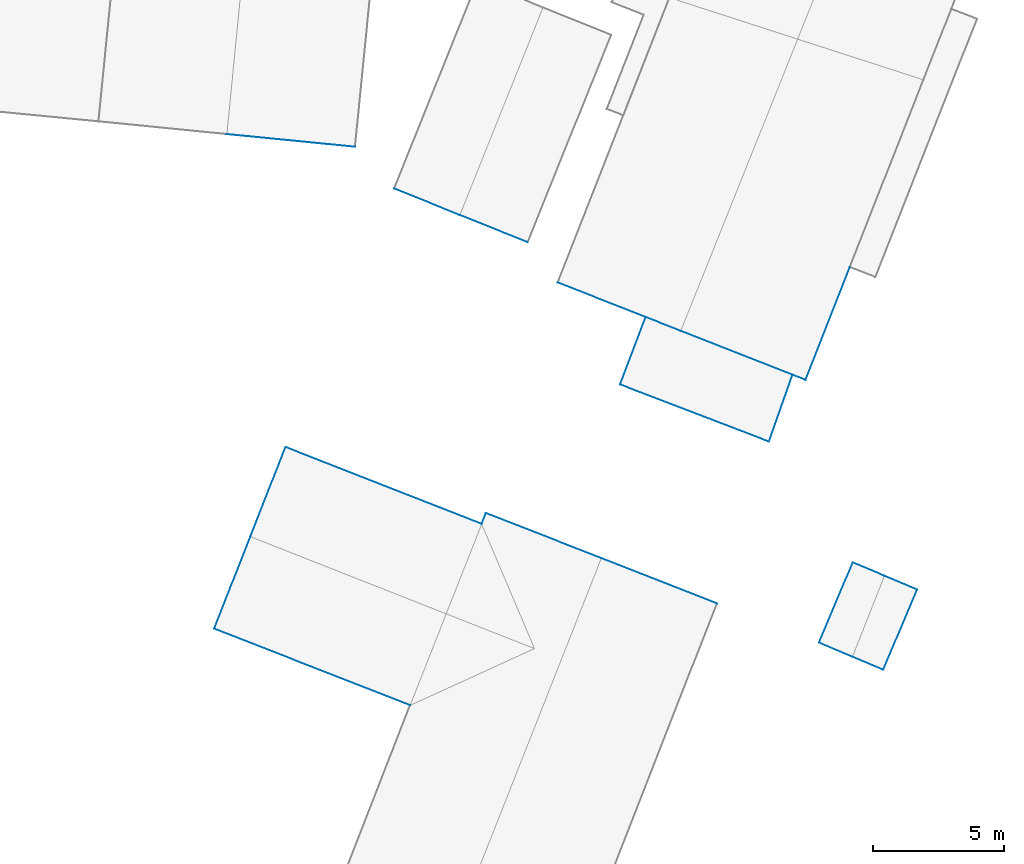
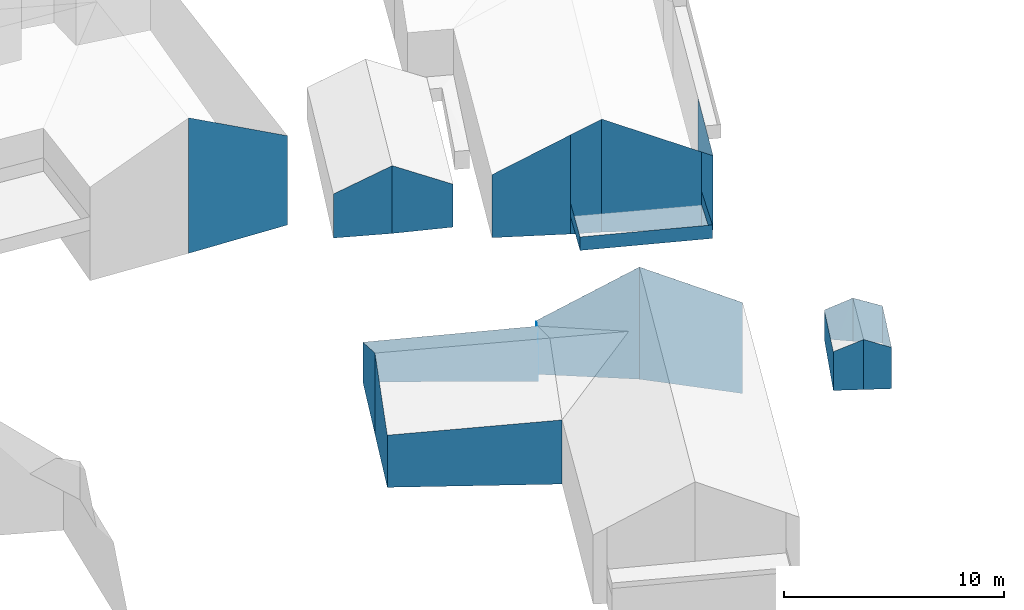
# Not in any storey, part 40 of 57: 27 walls.
"""IFC2X3 building model written with IfcOpenShell, lengths in metres."""

from ifc_helpers import new_model, entity, si_unit, converted_unit, origin, place, context, subcontext, project, spatial, face_set, surface_model, element, save


model = new_model("IFC2X3")

# Units and contexts
model_context = context("Model", 3, precision=1e-05, world=origin())
body_context = subcontext(model_context, "Body", "Model", "MODEL_VIEW")
ifc_project = project(units=[converted_unit("PLANEANGLEUNIT", "DEGREE", entity("IfcRatioMeasure", 0.0174532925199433), si_unit("PLANEANGLEUNIT", "RADIAN"), dimensions=[0, 0, 0, 0, 0, 0, 0]), si_unit("AREAUNIT", "SQUARE_METRE"), si_unit("LENGTHUNIT", "METRE")], contexts=[model_context])

# Site, building
site_placement = place(None, origin())
site = spatial("IfcSite", under=ifc_project, at=site_placement, Name="_site", CompositionType="ELEMENT")
building_1_placement = place(site_placement, origin())
building_1 = spatial("IfcBuilding", under=site, at=building_1_placement, Name="_building", CompositionType="ELEMENT")

# Walls
wall_1_placement = place(building_1_placement, origin())
element("IfcWall", 1, at=wall_1_placement, inside=building_1, Name="Wall", context=body_context, shape_type="SurfaceModel", body=[
    surface_model("IfcFaceBasedSurfaceModel", [(280.772, 134.306, 111.8), (278.174, 135.347, 113.11), (278.174, 135.347, 109.347), (280.772, 134.306, 109.42)], [face_set([[[0, 1, 2, 3]]])]),
])
wall_2_placement = place(building_1_placement, origin())
element("IfcWall", 2, at=wall_2_placement, inside=building_1, Name="Wall", context=body_context, shape_type="SurfaceModel", body=[
    surface_model("IfcFaceBasedSurfaceModel", [(278.174, 135.347, 113.11), (275.667, 136.357, 111.8), (275.667, 136.357, 109.357), (278.174, 135.347, 109.347)], [face_set([[[0, 1, 2, 3]]])]),
])

# Building
building_2_placement = place(site_placement, origin())
building_2 = spatial("IfcBuilding", under=site, at=building_2_placement, Name="_building", CompositionType="ELEMENT")

# Walls
wall_3_placement = place(building_2_placement, origin())
element("IfcWall", 3, at=wall_3_placement, inside=building_2, Name="Wall", context=body_context, shape_type="SurfaceModel", body=[
    surface_model("IfcFaceBasedSurfaceModel", [(293.193, 122.068, 107.89), (294.402, 121.559, 108.44), (294.402, 121.559, 106.04), (293.193, 122.068, 106.284)], [face_set([[[0, 1, 2, 3]]])]),
])
wall_4_placement = place(building_2_placement, origin())
element("IfcWall", 4, at=wall_4_placement, inside=building_2, Name="Wall", context=body_context, shape_type="SurfaceModel", body=[
    surface_model("IfcFaceBasedSurfaceModel", [(291.901, 119.006, 107.89), (293.193, 122.068, 107.89), (293.193, 122.068, 106.284), (291.901, 119.006, 105.732)], [face_set([[[0, 1, 2, 3]]])]),
])
wall_5_placement = place(building_2_placement, origin())
element("IfcWall", 5, at=wall_5_placement, inside=building_2, Name="Wall", context=body_context, shape_type="SurfaceModel", body=[
    surface_model("IfcFaceBasedSurfaceModel", [(293.179, 118.466, 108.44), (291.901, 119.006, 107.89), (291.901, 119.006, 105.732), (293.179, 118.466, 105.664)], [face_set([[[0, 1, 2, 3]]])]),
])
wall_6_placement = place(building_2_placement, origin())
element("IfcWall", 6, at=wall_6_placement, inside=building_2, Name="Wall", context=body_context, shape_type="SurfaceModel", body=[
    surface_model("IfcFaceBasedSurfaceModel", [(294.358, 117.968, 107.89), (293.179, 118.466, 108.44), (293.179, 118.466, 105.664), (294.358, 117.968, 105.601)], [face_set([[[0, 1, 2, 3]]])]),
])
wall_7_placement = place(building_2_placement, origin())
element("IfcWall", 7, at=wall_7_placement, inside=building_2, Name="Wall", context=body_context, shape_type="SurfaceModel", body=[
    surface_model("IfcFaceBasedSurfaceModel", [(295.65, 121.03, 107.89), (294.358, 117.968, 107.89), (294.358, 117.968, 105.601), (295.65, 121.03, 105.836)], [face_set([[[0, 1, 2, 3]]])]),
])
wall_8_placement = place(building_2_placement, origin())
element("IfcWall", 8, at=wall_8_placement, inside=building_2, Name="Wall", context=body_context, shape_type="SurfaceModel", body=[
    surface_model("IfcFaceBasedSurfaceModel", [(294.402, 121.559, 108.44), (295.65, 121.03, 107.89), (295.65, 121.03, 105.836), (294.402, 121.559, 106.04)], [face_set([[[0, 1, 2, 3]]])]),
])

# Building
building_3_placement = place(site_placement, origin())
building_3 = spatial("IfcBuilding", under=site, at=building_3_placement, Name="_building", CompositionType="ELEMENT")

# Walls
wall_9_placement = place(building_3_placement, origin())
element("IfcWall", 9, at=wall_9_placement, inside=building_3, Name="Wall", context=body_context, shape_type="SurfaceModel", body=[
    surface_model("IfcFaceBasedSurfaceModel", [(285.277, 131.446, 114.697), (281.916, 132.768, 112.86), (281.916, 132.768, 109.364), (285.277, 131.446, 109.192)], [face_set([[[0, 1, 2, 3]]])]),
])
wall_10_placement = place(building_3_placement, origin())
element("IfcWall", 10, at=wall_10_placement, inside=building_3, Name="Wall", context=body_context, shape_type="SurfaceModel", body=[
    surface_model("IfcFaceBasedSurfaceModel", [(286.616, 130.917, 115.43), (285.277, 131.446, 114.697), (285.277, 131.446, 109.192), (286.616, 130.917, 109.149)], [face_set([[[0, 1, 2, 3]]])]),
])
wall_11_placement = place(building_3_placement, origin())
element("IfcWall", 11, at=wall_11_placement, inside=building_3, Name="Wall", context=body_context, shape_type="SurfaceModel", body=[
    surface_model("IfcFaceBasedSurfaceModel", [(291.385, 129.044, 112.86), (290.89, 129.238, 113.127), (290.89, 129.238, 108.833), (291.385, 129.044, 108.731)], [face_set([[[0, 1, 2, 3]]])]),
])
wall_12_placement = place(building_3_placement, origin())
element("IfcWall", 12, at=wall_12_placement, inside=building_3, Name="Wall", context=body_context, shape_type="SurfaceModel", body=[
    surface_model("IfcFaceBasedSurfaceModel", [(290.89, 129.238, 113.127), (286.616, 130.917, 115.43), (286.616, 130.917, 109.149), (290.89, 129.238, 108.833)], [face_set([[[0, 1, 2, 3]]])]),
])
wall_13_placement = place(building_3_placement, origin())
element("IfcWall", 13, at=wall_13_placement, inside=building_3, Name="Wall", context=body_context, shape_type="SurfaceModel", body=[
    surface_model("IfcFaceBasedSurfaceModel", [(293.08, 133.357, 112.86), (291.385, 129.044, 112.86), (291.385, 129.044, 108.731), (293.08, 133.357, 108.654)], [face_set([[[0, 1, 2, 3]]])]),
])
wall_14_placement = place(building_3_placement, origin())
element("IfcWall", 14, at=wall_14_placement, inside=building_3, Name="Wall", context=body_context, shape_type="SurfaceModel", body=[
    surface_model("IfcFaceBasedSurfaceModel", [(284.297, 128.87, 110.185), (285.277, 131.446, 110.185), (285.277, 131.446, 110.935), (284.297, 128.87, 110.935)], [face_set([[[0, 1, 2, 3]]])]),
])
wall_15_placement = place(building_3_placement, origin())
element("IfcWall", 15, at=wall_15_placement, inside=building_3, Name="Wall", context=body_context, shape_type="SurfaceModel", body=[
    surface_model("IfcFaceBasedSurfaceModel", [(290.89, 129.238, 110.185), (289.989, 126.686, 110.185), (289.989, 126.686, 110.935), (290.89, 129.238, 110.935)], [face_set([[[0, 1, 2, 3]]])]),
])
wall_16_placement = place(building_3_placement, origin())
element("IfcWall", 16, at=wall_16_placement, inside=building_3, Name="Wall", context=body_context, shape_type="SurfaceModel", body=[
    surface_model("IfcFaceBasedSurfaceModel", [(289.989, 126.686, 110.185), (284.297, 128.87, 110.185), (284.297, 128.87, 110.935), (289.989, 126.686, 110.935)], [face_set([[[0, 1, 2, 3]]])]),
])
wall_17_placement = place(building_3_placement, origin())
element("IfcWall", 17, at=wall_17_placement, inside=building_3, Name="Wall", context=body_context, shape_type="SurfaceModel", body=[
    surface_model("IfcFaceBasedSurfaceModel", [(284.297, 128.87, 110.185), (285.277, 131.446, 110.185), (285.277, 131.446, 110.935), (284.297, 128.87, 110.935)], [face_set([[[0, 1, 2, 3]]])]),
])
wall_18_placement = place(building_3_placement, origin())
element("IfcWall", 18, at=wall_18_placement, inside=building_3, Name="Wall", context=body_context, shape_type="SurfaceModel", body=[
    surface_model("IfcFaceBasedSurfaceModel", [(289.989, 126.686, 110.185), (284.297, 128.87, 110.185), (284.297, 128.87, 110.935), (289.989, 126.686, 110.935)], [face_set([[[0, 1, 2, 3]]])]),
])
wall_19_placement = place(building_3_placement, origin())
element("IfcWall", 19, at=wall_19_placement, inside=building_3, Name="Wall", context=body_context, shape_type="SurfaceModel", body=[
    surface_model("IfcFaceBasedSurfaceModel", [(290.89, 129.238, 110.185), (289.989, 126.686, 110.185), (289.989, 126.686, 110.935), (290.89, 129.238, 110.935)], [face_set([[[0, 1, 2, 3]]])]),
])

# Building
building_4_placement = place(site_placement, origin())
building_4 = spatial("IfcBuilding", under=site, at=building_4_placement, Name="_building", CompositionType="ELEMENT")

# Walls
wall_20_placement = place(building_4_placement, origin())
element("IfcWall", 20, at=wall_20_placement, inside=building_4, Name="Wall", context=body_context, shape_type="SurfaceModel", body=[
    surface_model("IfcFaceBasedSurfaceModel", [(268.789, 119.537, 111.02), (270.172, 123.057, 112.96), (270.172, 123.057, 108.453), (268.789, 119.537, 108.124)], [face_set([[[0, 1, 2, 3]]])]),
])
wall_21_placement = place(building_4_placement, origin())
element("IfcWall", 21, at=wall_21_placement, inside=building_4, Name="Wall", context=body_context, shape_type="SurfaceModel", body=[
    surface_model("IfcFaceBasedSurfaceModel", [(276.275, 116.611, 111.02), (268.789, 119.537, 111.02), (268.789, 119.537, 108.124), (276.275, 116.611, 107.461)], [face_set([[[0, 1, 2, 3]]])]),
])
wall_22_placement = place(building_4_placement, origin())
element("IfcWall", 22, at=wall_22_placement, inside=building_4, Name="Wall", context=body_context, shape_type="SurfaceModel", body=[
    surface_model("IfcFaceBasedSurfaceModel", [(271.513, 126.478, 111.02), (279.009, 123.541, 111.07), (279.009, 123.541, 108.009), (271.513, 126.478, 108.811)], [face_set([[[0, 1, 2, 3]]])]),
])
wall_23_placement = place(building_4_placement, origin())
element("IfcWall", 23, at=wall_23_placement, inside=building_4, Name="Wall", context=body_context, shape_type="SurfaceModel", body=[
    surface_model("IfcFaceBasedSurfaceModel", [(270.172, 123.057, 112.96), (271.513, 126.478, 111.02), (271.513, 126.478, 108.811), (270.172, 123.057, 108.453)], [face_set([[[0, 1, 2, 3]]])]),
])

# Building
building_5_placement = place(site_placement, origin())
building_5 = spatial("IfcBuilding", under=site, at=building_5_placement, Name="_building", CompositionType="ELEMENT")

# Walls
wall_24_placement = place(building_5_placement, origin())
element("IfcWall", 24, at=wall_24_placement, inside=building_5, Name="Wall", context=body_context, shape_type="SurfaceModel", body=[
    surface_model("IfcFaceBasedSurfaceModel", [(279.169, 123.957, 111.07), (283.581, 122.233, 113.54), (283.581, 122.233, 107.312), (279.169, 123.957, 108.086)], [face_set([[[0, 1, 2, 3]]])]),
])
wall_25_placement = place(building_5_placement, origin())
element("IfcWall", 25, at=wall_25_placement, inside=building_5, Name="Wall", context=body_context, shape_type="SurfaceModel", body=[
    surface_model("IfcFaceBasedSurfaceModel", [(279.009, 123.541, 111.07), (279.169, 123.957, 111.07), (279.169, 123.957, 108.086), (279.009, 123.541, 108.009)], [face_set([[[0, 1, 2, 3]]])]),
])
wall_26_placement = place(building_5_placement, origin())
element("IfcWall", 26, at=wall_26_placement, inside=building_5, Name="Wall", context=body_context, shape_type="SurfaceModel", body=[
    surface_model("IfcFaceBasedSurfaceModel", [(283.581, 122.233, 113.54), (288.003, 120.498, 111.07), (288.003, 120.498, 106.02), (283.581, 122.233, 107.312)], [face_set([[[0, 1, 2, 3]]])]),
])

# Building
building_6_placement = place(site_placement, origin())
building_6 = spatial("IfcBuilding", under=site, at=building_6_placement, Name="_building", CompositionType="ELEMENT")

# Wall
wall_27_placement = place(building_6_placement, origin())
element("IfcWall", 27, at=wall_27_placement, inside=building_6, Name="Wall", context=body_context, shape_type="SurfaceModel", body=[
    surface_model("IfcFaceBasedSurfaceModel", [(274.173, 137.953, 114.59), (269.271, 138.438, 117.01), (269.271, 138.438, 109.487), (274.173, 137.953, 109.637)], [face_set([[[0, 1, 2, 3]]])]),
])

save(model, "model.ifc")
